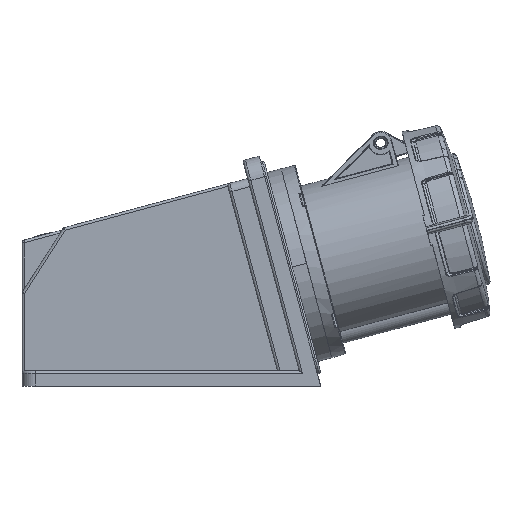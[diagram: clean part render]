
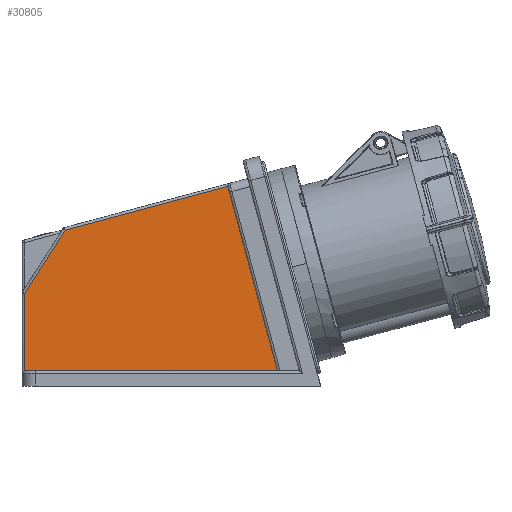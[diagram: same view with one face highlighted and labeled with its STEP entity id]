
A CAD part, left-side view. The second image highlights one B-rep face of the part: STEP entity #30805.
In plain terms, the highlighted planar face has unit normal (-1, 0, 0).
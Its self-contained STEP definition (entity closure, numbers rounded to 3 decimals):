
#17660 = EDGE_CURVE('',#17661,#17663,#17665,.T.);
#17661 = VERTEX_POINT('',#17662);
#17662 = CARTESIAN_POINT('',(-50.5,-62.795,9.));
#17663 = VERTEX_POINT('',#17664);
#17664 = CARTESIAN_POINT('',(-50.5,87.,9.));
#17665 = LINE('',#17666,#17667);
#17666 = CARTESIAN_POINT('',(-50.5,-62.795,9.));
#17667 = VECTOR('',#17668,1.);
#17668 = DIRECTION('',(0.,1.,0.));
#30717 = VERTEX_POINT('',#30718);
#30718 = CARTESIAN_POINT('',(-50.5,87.,54.952));
#30725 = EDGE_CURVE('',#30726,#30717,#30728,.T.);
#30726 = VERTEX_POINT('',#30727);
#30727 = CARTESIAN_POINT('',(-50.5,63.002,92.438));
#30728 = LINE('',#30729,#30730);
#30729 = CARTESIAN_POINT('',(-50.5,63.002,92.438));
#30730 = VECTOR('',#30731,1.);
#30731 = DIRECTION('',(0.,0.539,-0.842));
#30785 = VERTEX_POINT('',#30786);
#30786 = CARTESIAN_POINT('',(-50.5,-33.508,118.298));
#30795 = EDGE_CURVE('',#30726,#30785,#30796,.T.);
#30796 = LINE('',#30797,#30798);
#30797 = CARTESIAN_POINT('',(-50.5,63.002,92.438));
#30798 = VECTOR('',#30799,1.);
#30799 = DIRECTION('',(0.,-0.966,0.259));
#30805 = ADVANCED_FACE('',(#30806),#30823,.F.);
#30806 = FACE_BOUND('',#30807,.T.);
#30807 = EDGE_LOOP('',(#30808,#30809,#30815,#30816,#30822));
#30808 = ORIENTED_EDGE('',*,*,#30725,.T.);
#30809 = ORIENTED_EDGE('',*,*,#30810,.T.);
#30810 = EDGE_CURVE('',#30717,#17663,#30811,.T.);
#30811 = LINE('',#30812,#30813);
#30812 = CARTESIAN_POINT('',(-50.5,87.,54.952));
#30813 = VECTOR('',#30814,1.);
#30814 = DIRECTION('',(0.,0.,-1.));
#30815 = ORIENTED_EDGE('',*,*,#17660,.F.);
#30816 = ORIENTED_EDGE('',*,*,#30817,.F.);
#30817 = EDGE_CURVE('',#30785,#17661,#30818,.T.);
#30818 = LINE('',#30819,#30820);
#30819 = CARTESIAN_POINT('',(-50.5,-33.508,118.298));
#30820 = VECTOR('',#30821,1.);
#30821 = DIRECTION('',(0.,-0.259,-0.966));
#30822 = ORIENTED_EDGE('',*,*,#30795,.F.);
#30823 = PLANE('',#30824);
#30824 = AXIS2_PLACEMENT_3D('',#30825,#30826,#30827);
#30825 = CARTESIAN_POINT('',(-50.5,0.,0.));
#30826 = DIRECTION('',(1.,0.,0.));
#30827 = DIRECTION('',(0.,-1.,0.));
